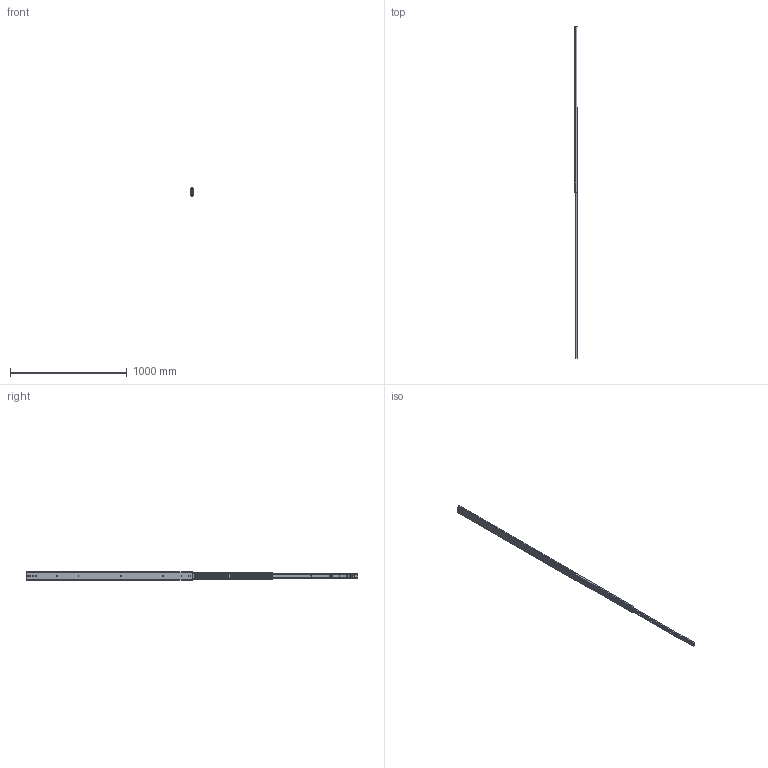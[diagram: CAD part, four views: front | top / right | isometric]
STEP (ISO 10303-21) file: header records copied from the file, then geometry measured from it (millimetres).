
FILE_DESCRIPTION(/* description */ ('Unknown'),/* implementation_level */ '2;1');
FILE_NAME(/* name */ '76J01-56 open',/* time_stamp */ '2024-07-30T11:01:22+08:00',/* author */ ('Unknown'),/* organization */ ('Unknown'),/* preprocessor_version */ 'ST-DEVELOPER v18.104',/* originating_system */ 'Solid Edge',/* authorisation */ 'Unknown');
FILE_SCHEMA (('AUTOMOTIVE_DESIGN {1 0 10303 214 3 1 1}'));
Length unit declared in the file: millimetre
Products named in the file (4): 76J01-56 open; 76J01 56 inch 內_0; 76J01 56 吋中_n; 76J01 56 吋
Assembly tree (3 placements, depth 2):
  76J01-56 open
    76J01 56 inch 內_0
    76J01 56 吋中_n
    76J01 56 吋
Bounding box: 19.3 x 2844.1 x 76.76 mm (x, y, z)
Volume: 1124295.2 mm3; surface area: 698927 mm2
Topology: 3 solids, 3 shells, 196 faces, 606 edges, 410 vertices
Faces by surface type: plane 104, cylinder 92
Full cylindrical faces by diameter (mm): 5.2 x16, 7.1 x2
Entity records: 7179 total; most frequent: CARTESIAN_POINT 1168, DIRECTION 1152, ORIENTED_EDGE 1140, EDGE_CURVE 570, VERTEX_POINT 392, LINE 384, VECTOR 384, AXIS2_PLACEMENT_3D 384
